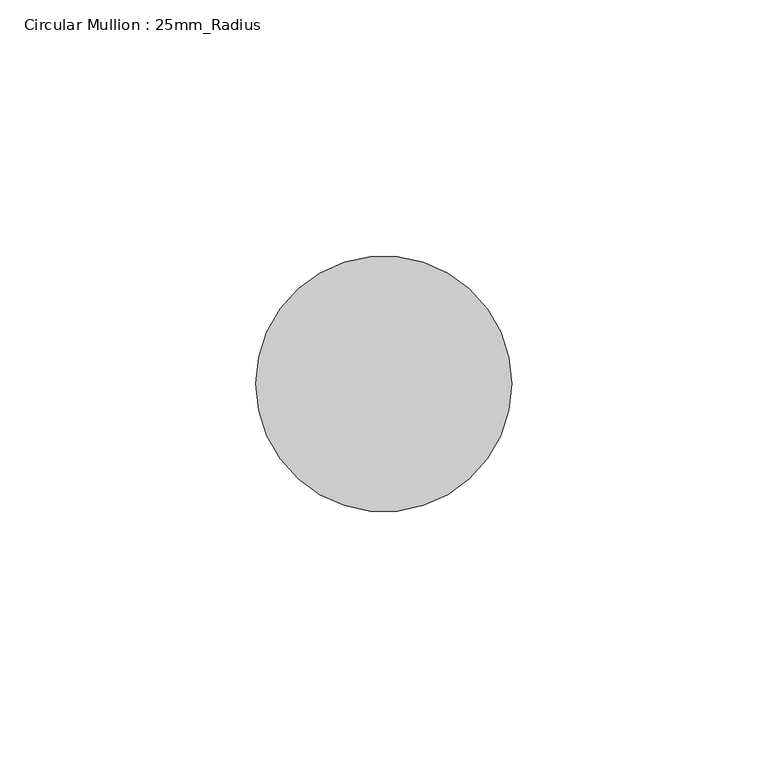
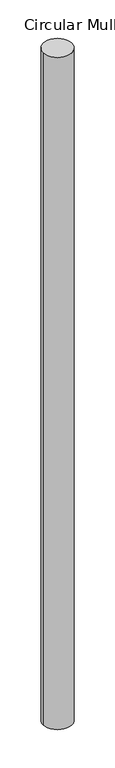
"""IFC4 building model written with IfcOpenShell, lengths in millimetres: member geometry, Circular Mullion : 25mm_Radius."""

from ifc_helpers import new_model, si_unit, point, frame, frame_2d, origin, place, context, project, spatial, circle_curve, trimmed, segment, composite_curve, outline, extrude, source, transform, mapped, element, save


def circular_mullion_25mm_radius_ce3df252(model_context):
    return source(origin(), model_context, "Body", "SweptSolid", [
        extrude(outline(composite_curve([segment(trimmed(circle_curve(frame_2d((-25.0, 0.0)), 25.0), [point((0.0, 0.0))], [point((-50.0, 0.0))], False, "CARTESIAN"), True, "CONTINUOUS"), segment(trimmed(circle_curve(frame_2d((-25.0, 0.0)), 25.0), [point((-50.0, 0.0))], [point((0.0, 0.0))], False, "CARTESIAN"), True, "CONTINUOUS")], self_intersect=False)), frame((0.0, 0.0, -1231.609915), z_axis=(0.0, 0.0, 1.0), x_axis=(1.0, 0.0, 0.0)), (0.0, 0.0, 1.0), 1231.609915),
    ])


if __name__ == "__main__":
    model = new_model("IFC4")
    model_context = context("Model", 3, world=origin())
    ifc_project = project(units=[si_unit("LENGTHUNIT", "METRE", prefix="MILLI")], contexts=[model_context])
    site = spatial("IfcSite", under=ifc_project)
    building = spatial("IfcBuilding", under=site)
    placement = place(None, origin())
    circular_mullion_25mm_radius_shape = circular_mullion_25mm_radius_ce3df252(model_context)
    element("IfcMember", 1, ObjectType="Circular Mullion : 25mm_Radius", at=placement, inside=building, context=model_context, shape_type="MappedRepresentation", body=[
        mapped(circular_mullion_25mm_radius_shape, transform((0.0, 0.0, 0.0), x_axis=(1.0, 0.0, 0.0), y_axis=(0.0, 1.0, 0.0), z_axis=(0.0, 0.0, 1.0))),
    ])
    save(model, "model.ifc")
